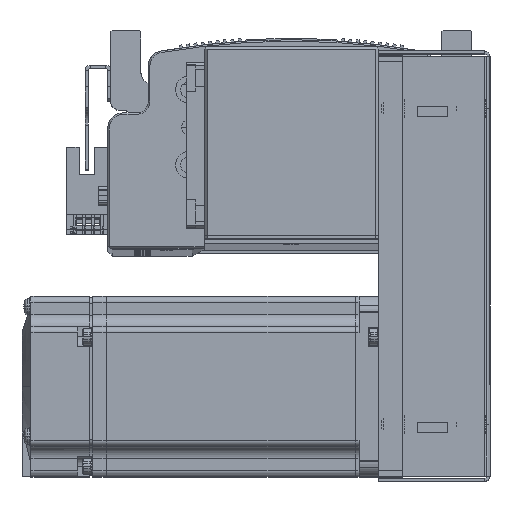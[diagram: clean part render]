
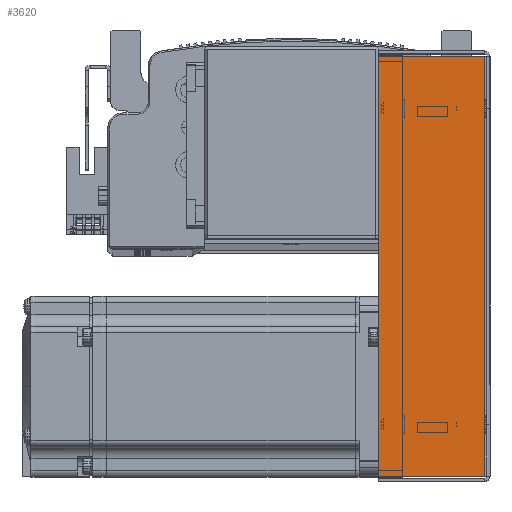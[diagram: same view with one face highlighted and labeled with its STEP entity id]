
A CAD part, top view. The second image highlights one B-rep face of the part: STEP entity #3620.
In plain terms, the highlighted planar face has unit normal (0, 0, 1).
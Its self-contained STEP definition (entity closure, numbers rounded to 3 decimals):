
#3620 = ADVANCED_FACE ( 'NONE', ( #74396 ), #67746, .F. ) ;
#30556 = EDGE_CURVE ( 'NONE', #51116, #51158, #79707, .T. ) ;
#30574 = EDGE_CURVE ( 'NONE', #51158, #51152, #79594, .T. ) ;
#30719 = EDGE_CURVE ( 'NONE', #51166, #51152, #79722, .T. ) ;
#30797 = EDGE_CURVE ( 'NONE', #51116, #51166, #79948, .T. ) ;
#40562 = EDGE_LOOP ( 'NONE', ( #92438, #92403, #92349, #92478 ) ) ;
#51116 = VERTEX_POINT ( 'NONE', #64153 ) ;
#51152 = VERTEX_POINT ( 'NONE', #64225 ) ;
#51158 = VERTEX_POINT ( 'NONE', #64218 ) ;
#51166 = VERTEX_POINT ( 'NONE', #64240 ) ;
#64153 = CARTESIAN_POINT ( 'NONE',  ( 69.793, 0.737, 33.5 ) ) ;
#64218 = CARTESIAN_POINT ( 'NONE',  ( 69.793, 36., 33.5 ) ) ;
#64225 = CARTESIAN_POINT ( 'NONE',  ( -69.793, 36., 33.5 ) ) ;
#64240 = CARTESIAN_POINT ( 'NONE',  ( -69.793, 0.737, 33.5 ) ) ;
#64576 = AXIS2_PLACEMENT_3D ( 'NONE', #67761, #67763, #67764 ) ;
#67746 = PLANE ( 'NONE',  #64576 ) ;
#67761 = CARTESIAN_POINT ( 'NONE',  ( 0., 0., 33.5 ) ) ;
#67763 = DIRECTION ( 'NONE',  ( 0., 0., -1. ) ) ;
#67764 = DIRECTION ( 'NONE',  ( -1., 0., 0. ) ) ;
#70798 = DIRECTION ( 'NONE',  ( 0., 1., 0. ) ) ;
#70806 = CARTESIAN_POINT ( 'NONE',  ( -69.793, 0., 33.5 ) ) ;
#70846 = CARTESIAN_POINT ( 'NONE',  ( -71.5, 0.737, 33.5 ) ) ;
#70886 = DIRECTION ( 'NONE',  ( -1., 0., 0. ) ) ;
#73626 = DIRECTION ( 'NONE',  ( 0., 1., 0. ) ) ;
#73628 = CARTESIAN_POINT ( 'NONE',  ( 69.793, 0., 33.5 ) ) ;
#73688 = CARTESIAN_POINT ( 'NONE',  ( 0., 36., 33.5 ) ) ;
#73708 = DIRECTION ( 'NONE',  ( -1., 0., 0. ) ) ;
#74396 = FACE_OUTER_BOUND ( 'NONE', #40562, .T. ) ;
#79594 = LINE ( 'NONE', #73688, #79811 ) ;
#79657 = VECTOR ( 'NONE', #73626, 1000. ) ;
#79707 = LINE ( 'NONE', #73628, #79657 ) ;
#79722 = LINE ( 'NONE', #70806, #79738 ) ;
#79738 = VECTOR ( 'NONE', #70798, 1000. ) ;
#79811 = VECTOR ( 'NONE', #73708, 1000. ) ;
#79948 = LINE ( 'NONE', #70846, #80005 ) ;
#80005 = VECTOR ( 'NONE', #70886, 1000. ) ;
#92349 = ORIENTED_EDGE ( 'NONE', *, *, #30574, .T. ) ;
#92403 = ORIENTED_EDGE ( 'NONE', *, *, #30556, .T. ) ;
#92438 = ORIENTED_EDGE ( 'NONE', *, *, #30797, .F. ) ;
#92478 = ORIENTED_EDGE ( 'NONE', *, *, #30719, .F. ) ;
